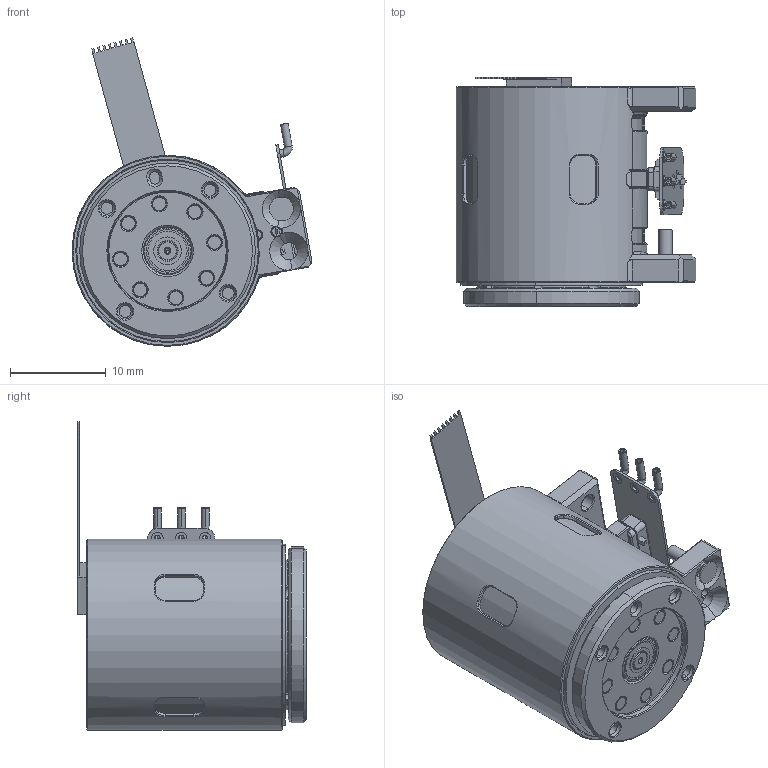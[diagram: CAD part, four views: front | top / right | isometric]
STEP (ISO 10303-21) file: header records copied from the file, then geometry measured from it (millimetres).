
FILE_DESCRIPTION((''),'2;1');
FILE_NAME('X20S-UM15_30_50-MH-4_ASM','2026-01-27T18:14:21',('wenbo'),(''),'CREO PARAMETRIC BY PTC INC, 2024325','CREO PARAMETRIC BY PTC INC, 2024325','');
FILE_SCHEMA(('CONFIG_CONTROL_DESIGN'));
Length unit declared in the file: millimetre
Products named in the file (24): 023000000004_64_1_1; 021100000001_ASM_35_ASM_1_ASM_1_ASM; 024300000006_19_1_1; 023500000004_5_1_1; 020600000001_ASM_38_ASM_1_ASM_1_ASM; PRT0003_3_1_1; 000200000001_ASM_127_ASM_1_ASM__ASM; 022800000002_35_1_1; 024800000001_7_1_1; 1111_2_1_1; 024800000001_ASM_3_ASM_1_ASM_1_ASM; 520_5_1_1; 025000000002_AF0_2_1_1_1_1; 025300000001_1_1_2_1_1_1; 025000000001_ASM_2_1_ASM_1_AS_1_ASM; ASM0005_ASM_1_ASM_1_ASM_1_ASM; 062700000003_9_1_1; 065100000001_1_1_1; 020200000001_ASM_85_ASM_1_ASM_1_ASM; PRT0012_11_1; 020200000001_ASM_ASM_1_ASM_1_ASM; PRT0014_1; X20L-UM15_30_50-MH-4_ASM_1_ASM; X20S-UM15_30_50-MH-4_ASM
Assembly tree (34 placements, depth 7):
  X20S-UM15_30_50-MH-4_ASM
    X20L-UM15_30_50-MH-4_ASM_1_ASM
      020200000001_ASM_ASM_1_ASM_1_ASM
        020200000001_ASM_85_ASM_1_ASM_1_ASM
          000200000001_ASM_127_ASM_1_ASM__ASM
            021100000001_ASM_35_ASM_1_ASM_1_ASM
              023000000004_64_1_1
            020600000001_ASM_38_ASM_1_ASM_1_ASM
              024300000006_19_1_1  x8
              023500000004_5_1_1
            PRT0003_3_1_1
          022800000002_35_1_1
          024800000001_ASM_3_ASM_1_ASM_1_ASM
            024800000001_7_1_1
            1111_2_1_1
          520_5_1_1
          ASM0005_ASM_1_ASM_1_ASM_1_ASM
            025000000001_ASM_2_1_ASM_1_AS_1_ASM
              025000000002_AF0_2_1_1_1_1
              025300000001_1_1_2_1_1_1  x3
          062700000003_9_1_1
          065100000001_1_1_1  x3
        PRT0012_11_1
      PRT0014_1
Bounding box: 25.13 x 23.95 x 32.32 mm (x, y, z)
Volume: 6395.5 mm3; surface area: 6990.2 mm2
Topology: 25 solids, 29 shells, 908 faces, 2464 edges, 1618 vertices
Faces by surface type: plane 325, cylinder 256, torus 141, cone 124, bspline 60, sphere 2
Entity records: 30901 total; most frequent: CARTESIAN_POINT 9486, DIRECTION 4631, ORIENTED_EDGE 4360, EDGE_CURVE 2196, AXIS2_PLACEMENT_3D 1836, VERTEX_POINT 1452, CIRCLE 1015, VECTOR 959
